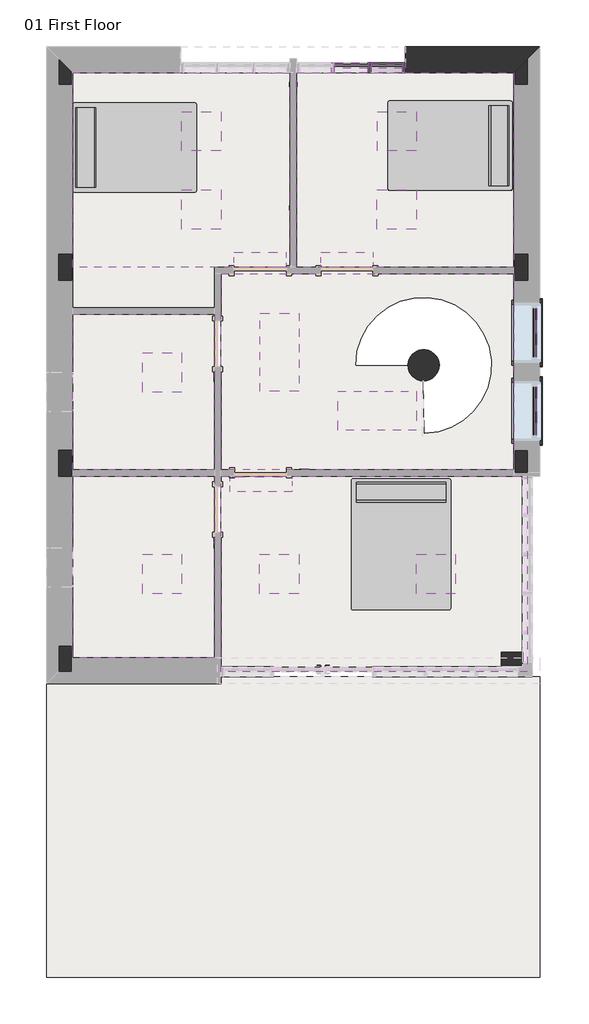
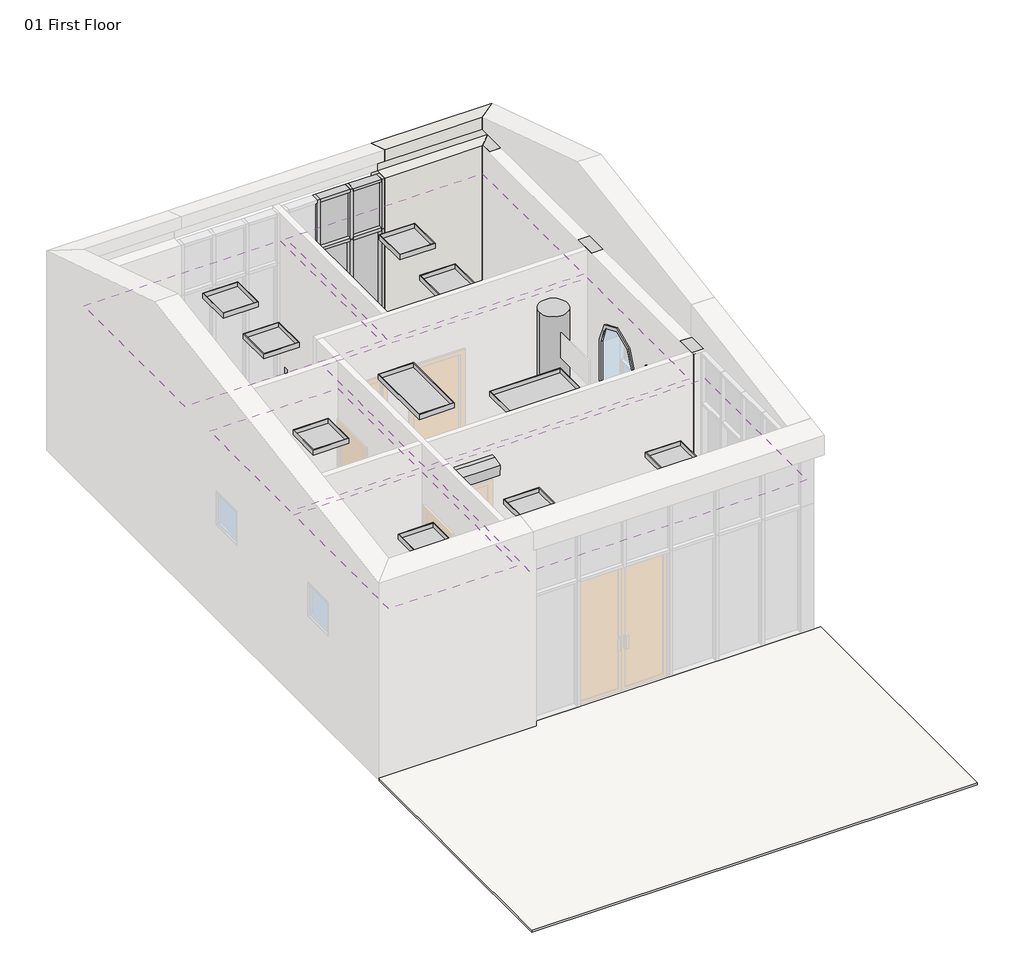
# One storey, part 3 of 3: 22 proxies, 10 light fixtures, 10 members, 9 columns, 6 coverings, 6 switching devices, 4 plates, 4 slabs, 4 other elements.
"""IFC4 building model written with IfcOpenShell, lengths in millimetres."""

from ifc_helpers import new_model, si_unit, point, frame, frame_2d, origin, place, context, project, spatial, polyline, circle_curve, trimmed, segment, composite_curve, outline, extrude, faceted_brep, transform, mapped, element, save
from components import proxy_2_9kw_1a9f3e23, proxy_5_3kw_afc13b87, m_muntin_pattern_2x2_m_muntin_pattern_2x2_eda20b33, m_receptacle_220v_standard_10251bba, m_trim_window_exterior_arch_hung_with_sill_d6b66b3f, m_trim_window_interior_arch_hung_picture_frame_427b2bff, m_bed_standard_1372_x_1905mm_double_2dcc4a2e, m_bed_standard_1525_x_2007mm_queen_67038778, ceiling_light_linear_box_0600x0600mm_1_lamp_277v_bcd122ad, ceiling_light_linear_box_0600x1200mm_2_lamp_230v_26f9dbca, rectangular_mullion_50_x_150mm_8753ce05, rectangular_mullion_50_x_150mm_f70f74d1, rectangular_mullion_50_x_150mm_3ddb3363, rectangular_mullion_50_x_150mm_35d6a770, rectangular_mullion_50_x_150mm_8bb02af5, rectangular_mullion_50_x_150mm_36ef6b42, rectangular_mullion_50_x_150mm_777ece87, rectangular_mullion_50_x_150mm_77e6cf30, system_panel_glazed_dae2c24c, system_panel_glazed_5e1a99da, system_panel_solid_02889cea, system_panel_solid_591e5d25

model = new_model("IFC4")

# Units and contexts
model_context = context("Model", 3, world=origin())
ifc_project = project(units=[si_unit("LENGTHUNIT", "METRE", prefix="MILLI")], contexts=[model_context])

# Site, building, storey
site = spatial("IfcSite", under=ifc_project)
building = spatial("IfcBuilding", under=site)
storey = spatial("IfcBuildingStorey", under=building, Name="01 First Floor", Elevation=3500.0)

# Proxies
placement = place(None, origin())
proxy_2_9kw_shape = proxy_2_9kw_1a9f3e23(model_context)
element("IfcBuildingElementProxy", 1, Name="Fan_Coil_Unit-Daikin-FXAQ-P-WallMount-ConnBack : 2.9Kw", ObjectType="Fan_Coil_Unit-Daikin-FXAQ-P-WallMount-ConnBack : 2.9Kw", at=placement, inside=storey, context=model_context, shape_type="MappedRepresentation", body=[
    mapped(proxy_2_9kw_shape, transform((-3895.6378657, 3256.4463435, 5810.0), x_axis=(-0.9999999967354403, -8.080296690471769e-05, 0.0), y_axis=(8.080296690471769e-05, -0.9999999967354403, 0.0), z_axis=(0.0, 0.0, 1.0))),
])
element("IfcBuildingElementProxy", 2, Name="Fan_Coil_Unit-Daikin-FXAQ-P-WallMount-ConnBack : 2.9Kw", ObjectType="Fan_Coil_Unit-Daikin-FXAQ-P-WallMount-ConnBack : 2.9Kw", at=placement, inside=storey, context=model_context, shape_type="MappedRepresentation", body=[
    mapped(proxy_2_9kw_shape, transform((-5230.6376022, 3256.3348354, 5810.0), x_axis=(-0.9999999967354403, -8.080296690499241e-05, 0.0), y_axis=(8.080296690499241e-05, -0.9999999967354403, 0.0), z_axis=(0.0, 0.0, 1.0))),
])
proxy_5_3kw_shape = proxy_5_3kw_afc13b87(model_context)
element("IfcBuildingElementProxy", 3, Name="Fan_Coil_Unit-Daikin-FXAQ-P-WallMount-ConnBack : 5.3Kw", ObjectType="Fan_Coil_Unit-Daikin-FXAQ-P-WallMount-ConnBack : 5.3Kw", at=placement, inside=storey, context=model_context, shape_type="MappedRepresentation", body=[
    mapped(proxy_5_3kw_shape, transform((-5217.5407999, -186.7101648, 5810.0), x_axis=(1.0, 0.0, 0.0), y_axis=(0.0, 1.0, 0.0), z_axis=(0.0, 0.0, 1.0))),
])
m_muntin_pattern_2x2_m_muntin_pattern_2x2_shape = m_muntin_pattern_2x2_m_muntin_pattern_2x2_eda20b33(model_context)
element("IfcBuildingElementProxy", 4, Name="M_Muntin Pattern_2x2 : M_Muntin Pattern_2x2", ObjectType="M_Muntin Pattern_2x2 : M_Muntin Pattern_2x2", at=placement, inside=storey, context=model_context, shape_type="MappedRepresentation", body=[
    mapped(m_muntin_pattern_2x2_m_muntin_pattern_2x2_shape, transform((-972.4657999, 936.7898352, 4922.225), x_axis=(0.0, -1.0, 0.0), y_axis=(1.0, 0.0, 0.0), z_axis=(0.0, 0.0, 1.0))),
])
element("IfcBuildingElementProxy", 5, Name="M_Muntin Pattern_2x2 : M_Muntin Pattern_2x2", ObjectType="M_Muntin Pattern_2x2 : M_Muntin Pattern_2x2", at=placement, inside=storey, context=model_context, shape_type="MappedRepresentation", body=[
    mapped(m_muntin_pattern_2x2_m_muntin_pattern_2x2_shape, transform((-1016.9157999, 936.7898352, 4076.2), x_axis=(0.0, -1.0, 0.0), y_axis=(1.0, 0.0, 0.0), z_axis=(0.0, 0.0, 1.0))),
])
element("IfcBuildingElementProxy", 6, Name="M_Muntin Pattern_2x2 : M_Muntin Pattern_2x2", ObjectType="M_Muntin Pattern_2x2 : M_Muntin Pattern_2x2", at=placement, inside=storey, context=model_context, shape_type="MappedRepresentation", body=[
    mapped(m_muntin_pattern_2x2_m_muntin_pattern_2x2_shape, transform((-972.4657999, 2136.7898352, 4922.225), x_axis=(0.0, -1.0, 0.0), y_axis=(1.0, 0.0, 0.0), z_axis=(0.0, 0.0, 1.0))),
])
element("IfcBuildingElementProxy", 7, Name="M_Muntin Pattern_2x2 : M_Muntin Pattern_2x2", ObjectType="M_Muntin Pattern_2x2 : M_Muntin Pattern_2x2", at=placement, inside=storey, context=model_context, shape_type="MappedRepresentation", body=[
    mapped(m_muntin_pattern_2x2_m_muntin_pattern_2x2_shape, transform((-1016.9157999, 2136.7898352, 4076.2), x_axis=(0.0, -1.0, 0.0), y_axis=(1.0, 0.0, 0.0), z_axis=(0.0, 0.0, 1.0))),
])
m_receptacle_220v_standard_shape = m_receptacle_220v_standard_10251bba(model_context)
element("IfcBuildingElementProxy", 8, Name="M_Receptacle - 220V : Standard", ObjectType="M_Receptacle - 220V : Standard", at=placement, inside=storey, context=model_context, shape_type="MappedRepresentation", body=[
    mapped(m_receptacle_220v_standard_shape, transform((-8109.5407999, 5771.3036629, 3960.0), x_axis=(0.0, 1.0, 0.0), y_axis=(0.0, 0.0, 1.0), z_axis=(1.0, 0.0, 0.0))),
])
element("IfcBuildingElementProxy", 9, Name="M_Receptacle - 220V : Standard", ObjectType="M_Receptacle - 220V : Standard", at=placement, inside=storey, context=model_context, shape_type="MappedRepresentation", body=[
    mapped(m_receptacle_220v_standard_shape, transform((-8109.5407999, 4155.4948198, 3960.0), x_axis=(0.0, 1.0, 0.0), y_axis=(0.0, 0.0, 1.0), z_axis=(1.0, 0.0, 0.0))),
])
element("IfcBuildingElementProxy", 10, Name="M_Receptacle - 220V : Standard", ObjectType="M_Receptacle - 220V : Standard", at=placement, inside=storey, context=model_context, shape_type="MappedRepresentation", body=[
    mapped(m_receptacle_220v_standard_shape, transform((-1335.5407999, 5799.2898352, 3960.0), x_axis=(0.0, -1.0, 0.0), y_axis=(0.0, 0.0, 1.0), z_axis=(-1.0, 0.0, 0.0))),
])
element("IfcBuildingElementProxy", 11, Name="M_Receptacle - 220V : Standard", ObjectType="M_Receptacle - 220V : Standard", at=placement, inside=storey, context=model_context, shape_type="MappedRepresentation", body=[
    mapped(m_receptacle_220v_standard_shape, transform((-1335.5407999, 4208.453823, 3960.0), x_axis=(0.0, -1.0, 0.0), y_axis=(0.0, 0.0, 1.0), z_axis=(-1.0, 0.0, 0.0))),
])
element("IfcBuildingElementProxy", 12, Name="M_Receptacle - 220V : Standard", ObjectType="M_Receptacle - 220V : Standard", at=placement, inside=storey, context=model_context, shape_type="MappedRepresentation", body=[
    mapped(m_receptacle_220v_standard_shape, transform((-4772.5407999, 5939.2898352, 3960.0), x_axis=(0.0, 1.0, 0.0), y_axis=(0.0, 0.0, -1.0), z_axis=(-1.0, 0.0, 0.0))),
])
element("IfcBuildingElementProxy", 13, Name="M_Receptacle - 220V : Standard", ObjectType="M_Receptacle - 220V : Standard", at=placement, inside=storey, context=model_context, shape_type="MappedRepresentation", body=[
    mapped(m_receptacle_220v_standard_shape, transform((-4668.7907999, 5939.2898352, 3960.0), x_axis=(0.0, -1.0, 0.0), y_axis=(0.0, 0.0, -1.0), z_axis=(1.0, 0.0, 0.0))),
])
element("IfcBuildingElementProxy", 14, Name="M_Receptacle - 220V : Standard", ObjectType="M_Receptacle - 220V : Standard", at=placement, inside=storey, context=model_context, shape_type="MappedRepresentation", body=[
    mapped(m_receptacle_220v_standard_shape, transform((-5932.5407999, 1415.980552, 4700.0), x_axis=(0.0, -1.0, 0.0), y_axis=(0.0, 0.0, 1.0), z_axis=(-1.0, 0.0, 0.0))),
])
element("IfcBuildingElementProxy", 15, Name="M_Receptacle - 220V : Standard", ObjectType="M_Receptacle - 220V : Standard", at=placement, inside=storey, context=model_context, shape_type="MappedRepresentation", body=[
    mapped(m_receptacle_220v_standard_shape, transform((-5932.5407999, -1130.2644248, 4700.0), x_axis=(0.0, -1.0, 0.0), y_axis=(0.0, 0.0, 1.0), z_axis=(-1.0, 0.0, 0.0))),
])
element("IfcBuildingElementProxy", 16, Name="M_Receptacle - 220V : Standard", ObjectType="M_Receptacle - 220V : Standard", at=placement, inside=storey, context=model_context, shape_type="MappedRepresentation", body=[
    mapped(m_receptacle_220v_standard_shape, transform((-3943.4500682, -62.7101648, 3960.0), x_axis=(1.0, 0.0, 0.0), y_axis=(0.0, 0.0, 1.0), z_axis=(0.0, -1.0, 0.0))),
])
element("IfcBuildingElementProxy", 17, Name="M_Receptacle - 220V : Standard", ObjectType="M_Receptacle - 220V : Standard", at=placement, inside=storey, context=model_context, shape_type="MappedRepresentation", body=[
    mapped(m_receptacle_220v_standard_shape, transform((-2227.5407999, -62.7101648, 3960.0), x_axis=(1.0, 0.0, 0.0), y_axis=(0.0, 0.0, 1.0), z_axis=(0.0, -1.0, 0.0))),
])
element("IfcBuildingElementProxy", 18, Name="M_Receptacle - 220V : Standard", ObjectType="M_Receptacle - 220V : Standard", at=placement, inside=storey, context=model_context, shape_type="MappedRepresentation", body=[
    mapped(m_receptacle_220v_standard_shape, transform((-4514.3105571, 37.2898352, 4700.0), x_axis=(-1.0, 0.0, 0.0), y_axis=(0.0, 0.0, 1.0), z_axis=(0.0, 1.0, 0.0))),
])
m_trim_window_exterior_arch_hung_with_sill_shape = m_trim_window_exterior_arch_hung_with_sill_d6b66b3f(model_context)
element("IfcBuildingElementProxy", 19, Name="M_Trim-Window-Exterior-Arch-Hung : with Sill", ObjectType="M_Trim-Window-Exterior-Arch-Hung : with Sill", at=placement, inside=storey, context=model_context, shape_type="MappedRepresentation", body=[
    mapped(m_trim_window_exterior_arch_hung_with_sill_shape, transform((-937.5407999, 936.7898352, 5800.0), x_axis=(0.0, 1.0, 0.0), y_axis=(0.0, 0.0, 1.0), z_axis=(1.0, 0.0, 0.0))),
])
element("IfcBuildingElementProxy", 20, Name="M_Trim-Window-Exterior-Arch-Hung : with Sill", ObjectType="M_Trim-Window-Exterior-Arch-Hung : with Sill", at=placement, inside=storey, context=model_context, shape_type="MappedRepresentation", body=[
    mapped(m_trim_window_exterior_arch_hung_with_sill_shape, transform((-937.5407999, 2136.7898352, 5800.0), x_axis=(0.0, 1.0, 0.0), y_axis=(0.0, 0.0, 1.0), z_axis=(1.0, 0.0, 0.0))),
])
m_trim_window_interior_arch_hung_picture_frame_shape = m_trim_window_interior_arch_hung_picture_frame_427b2bff(model_context)
element("IfcBuildingElementProxy", 21, Name="M_Trim-Window-Interior-Arch-Hung : Picture Frame", ObjectType="M_Trim-Window-Interior-Arch-Hung : Picture Frame", at=placement, inside=storey, context=model_context, shape_type="MappedRepresentation", body=[
    mapped(m_trim_window_interior_arch_hung_picture_frame_shape, transform((-1335.5407999, 936.7898352, 5800.0), x_axis=(0.0, -1.0, 0.0), y_axis=(0.0, 0.0, 1.0), z_axis=(-1.0, 0.0, 0.0))),
])
element("IfcBuildingElementProxy", 22, Name="M_Trim-Window-Interior-Arch-Hung : Picture Frame", ObjectType="M_Trim-Window-Interior-Arch-Hung : Picture Frame", at=placement, inside=storey, context=model_context, shape_type="MappedRepresentation", body=[
    mapped(m_trim_window_interior_arch_hung_picture_frame_shape, transform((-1335.5407999, 2136.7898352, 5800.0), x_axis=(0.0, -1.0, 0.0), y_axis=(0.0, 0.0, 1.0), z_axis=(-1.0, 0.0, 0.0))),
])

# Columns
element("IfcColumn", 23, ObjectType="M_Concrete-Rectangular-Column : 200 x 325mm", at=placement, inside=storey, context=model_context, shape_type="SweptSolid", body=[
    extrude(outline(polyline([(-1527.5407999, -2762.7101648), (-1202.5407999, -2762.7101648), (-1202.5407999, -2962.7101648), (-1527.5407999, -2962.7101648), (-1527.5407999, -2762.7101648)])), frame((0.0, 0.0, 3500.0), z_axis=(0.0, 0.0, 1.0), x_axis=(1.0, 0.0, 0.0)), (0.0, 0.0, 1.0), 3200.0),
])
element("IfcColumn", 24, ObjectType="M_Concrete-Rectangular-Column : 200 x 400mm", at=placement, inside=storey, context=model_context, shape_type="Brep", body=[
    faceted_brep([(-8122.5407999, 6337.2898352, 3500.0), (-8122.5407999, 6137.2898352, 3500.0), (-8122.5407999, 5937.2898352, 3500.0), (-8322.5407999, 5937.2898352, 3500.0), (-8322.5407999, 6337.2898352, 3500.0), (-8122.5407999, 6337.2898352, 6700.0), (-8122.5407999, 6137.2898352, 6700.0), (-8122.5407999, 5937.2898352, 6700.0), (-8322.5407999, 5937.2898352, 6700.0), (-8322.5407999, 6337.2898352, 6700.0)], [[[0, 1, 2, 3, 4]], [[2, 1, 0, 5, 6, 7]], [[3, 2, 7, 8]], [[4, 3, 8, 9]], [[0, 4, 9, 5]], [[7, 6, 5, 9, 8]]]),
])
element("IfcColumn", 25, ObjectType="M_Concrete-Rectangular-Column : 200 x 400mm", at=placement, inside=storey, context=model_context, shape_type="SweptSolid", body=[
    extrude(outline(polyline([(-8122.5407999, 3337.2898352), (-8122.5407999, 2937.2898352), (-8322.5407999, 2937.2898352), (-8322.5407999, 3337.2898352), (-8122.5407999, 3337.2898352)])), frame((0.0, 0.0, 3500.0), z_axis=(0.0, 0.0, 1.0), x_axis=(1.0, 0.0, 0.0)), (0.0, 0.0, 1.0), 3200.0),
])
element("IfcColumn", 26, ObjectType="M_Concrete-Rectangular-Column : 200 x 400mm", at=placement, inside=storey, context=model_context, shape_type="SweptSolid", body=[
    extrude(outline(polyline([(-8122.5407999, 337.2898352), (-8122.5407999, -62.7101648), (-8322.5407999, -62.7101648), (-8322.5407999, 337.2898352), (-8122.5407999, 337.2898352)])), frame((0.0, 0.0, 3500.0), z_axis=(0.0, 0.0, 1.0), x_axis=(1.0, 0.0, 0.0)), (0.0, 0.0, 1.0), 3200.0),
])
element("IfcColumn", 27, ObjectType="M_Concrete-Rectangular-Column : 200 x 400mm", at=placement, inside=storey, context=model_context, shape_type="Brep", body=[
    faceted_brep([(-8122.5407999, -2662.7101648, 3500.0), (-8122.5407999, -2862.7101648, 3500.0), (-8122.5407999, -3062.7101648, 3500.0), (-8322.5407999, -3062.7101648, 3500.0), (-8322.5407999, -2662.7101648, 3500.0), (-8122.5407999, -2662.7101648, 6700.0), (-8122.5407999, -2862.7101648, 6700.0), (-8122.5407999, -3062.7101648, 6700.0), (-8322.5407999, -3062.7101648, 6700.0), (-8322.5407999, -2662.7101648, 6700.0)], [[[0, 1, 2, 3, 4]], [[2, 1, 0, 5, 6, 7]], [[3, 2, 7, 8]], [[4, 3, 8, 9]], [[0, 4, 9, 5]], [[7, 6, 5, 9, 8]]]),
])
element("IfcColumn", 28, ObjectType="M_Concrete-Rectangular-Column : 200 x 400mm", at=placement, inside=storey, context=model_context, shape_type="Brep", body=[
    faceted_brep([(-1122.5407999, 337.2898352, 3500.0), (-1122.5407999, -12.7101648, 3500.0), (-1122.5407999, -62.7101648, 3500.0), (-1322.5407999, -62.7101648, 3500.0), (-1322.5407999, -12.7101648, 3500.0), (-1322.5407999, 337.2898352, 3500.0), (-1122.5407999, 337.2898352, 6700.0), (-1122.5407999, -62.7101648, 6700.0), (-1322.5407999, -62.7101648, 6700.0), (-1322.5407999, -12.7101648, 6700.0), (-1322.5407999, 337.2898352, 6700.0)], [[[0, 1, 2, 3, 4, 5]], [[2, 1, 0, 6, 7]], [[3, 2, 7, 8]], [[5, 4, 3, 8, 9, 10]], [[0, 5, 10, 6]], [[7, 6, 10, 9, 8]]]),
])
element("IfcColumn", 29, ObjectType="M_Concrete-Rectangular-Column : 200 x 400mm", at=placement, inside=storey, context=model_context, shape_type="Brep", body=[
    faceted_brep([(-1122.5407999, 6337.2898352, 3500.0), (-1122.5407999, 5937.2898352, 3500.0), (-1322.5407999, 5937.2898352, 3500.0), (-1322.5407999, 6137.2898352, 3500.0), (-1322.5407999, 6337.2898352, 3500.0), (-1122.5407999, 6337.2898352, 6700.0), (-1122.5407999, 5937.2898352, 6700.0), (-1322.5407999, 5937.2898352, 6700.0), (-1322.5407999, 6137.2898352, 6700.0), (-1322.5407999, 6337.2898352, 6700.0)], [[[0, 1, 2, 3, 4]], [[1, 0, 5, 6]], [[2, 1, 6, 7]], [[4, 3, 2, 7, 8, 9]], [[0, 4, 9, 5]], [[6, 5, 9, 8, 7]]]),
])
element("IfcColumn", 30, ObjectType="M_Concrete-Rectangular-Column : 200 x 400mm", at=placement, inside=storey, context=model_context, shape_type="SweptSolid", body=[
    extrude(outline(polyline([(-1122.5407999, 3337.2898352), (-1122.5407999, 2937.2898352), (-1322.5407999, 2937.2898352), (-1322.5407999, 3337.2898352), (-1122.5407999, 3337.2898352)])), frame((0.0, 0.0, 3500.0), z_axis=(0.0, 0.0, 1.0), x_axis=(1.0, 0.0, 0.0)), (0.0, 0.0, 1.0), 3200.0),
])
element("IfcColumn", 31, ObjectType="M_Concrete-Round-Column : 480mm", at=placement, inside=storey, context=model_context, shape_type="SweptSolid", body=[
    extrude(outline(composite_curve([segment(trimmed(circle_curve(frame_2d((-2722.5407999, 1637.2898352)), 240.0), [point((-2962.5407999, 1637.2898352))], [point((-2482.5407999, 1637.2898352))], False, "CARTESIAN"), True, "CONTINUOUS"), segment(trimmed(circle_curve(frame_2d((-2722.5407999, 1637.2898352)), 240.0), [point((-2482.5407999, 1637.2898352))], [point((-2962.5407999, 1637.2898352))], False, "CARTESIAN"), True, "CONTINUOUS")], self_intersect=False)), frame((0.0, 0.0, 3500.0), z_axis=(0.0, 0.0, 1.0), x_axis=(1.0, 0.0, 0.0)), (0.0, 0.0, 1.0), 3500.0),
])

# Coverings
element("IfcCovering", 32, ObjectType="600 x 600mm Grid", at=placement, inside=storey, context=model_context, shape_type="SweptSolid", body=[
    extrude(outline(polyline([(-1127.5407999, -62.7101648), (-1127.5407999, -3062.7101648), (-5832.5407999, -3062.7101648), (-5832.5407999, -62.7101648), (-1127.5407999, -62.7101648)])), frame((0.0, 0.0, 6200.0), z_axis=(0.0, 0.0, 1.0), x_axis=(1.0, 0.0, 0.0)), (0.0, 0.0, 1.0), 52.0),
])
element("IfcCovering", 33, ObjectType="600 x 600mm Grid", at=placement, inside=storey, context=model_context, shape_type="SweptSolid", body=[
    extrude(outline(polyline([(-5832.5407999, 3037.2898352), (-1335.5407999, 3037.6532062), (-1335.5407999, 37.2898352), (-5832.5407999, 37.2898352), (-5832.5407999, 3037.2898352)]), holes=[composite_curve([segment(polyline([(-3570.4652094, 2239.5747664), (-2917.8645013, 1776.2998237)]), True, "CONTINUOUS"), segment(trimmed(circle_curve(frame_2d((-2722.147977, 1637.3625525)), 240.0177561), [point((-2917.8645013, 1776.2998237))], [point((-2722.147977, 1397.3447964))], False, "CARTESIAN"), True, "CONTINUOUS"), segment(polyline([(-2722.147977, 1397.3447964), (-2709.6572376, 597.4130295)]), True, "CONTINUOUS"), segment(trimmed(circle_curve(frame_2d((-2722.5259059, 1637.3625525)), 1040.0291404), [point((-2709.6572376, 597.4130295))], [point((-3570.4652094, 2239.5747664))], True, "CARTESIAN"), True, "CONTINUOUS")], self_intersect=False)]), frame((0.0, 0.0, 6200.0), z_axis=(0.0, 0.0, 1.0), x_axis=(1.0, 0.0, 0.0)), (0.0, 0.0, 1.0), 52.0),
])
element("IfcCovering", 34, ObjectType="600 x 600mm Grid", at=placement, inside=storey, context=model_context, shape_type="SweptSolid", body=[
    extrude(outline(polyline([(-2997.5407999, 6124.2898352), (-1335.5407999, 6124.2898352), (-1335.5407999, 3137.6532065), (-4672.5407999, 3137.383567), (-4672.5407999, 6124.2898352), (-2997.5407999, 6124.2898352)])), frame((0.0, 0.0, 6200.0), z_axis=(0.0, 0.0, 1.0), x_axis=(1.0, 0.0, 0.0)), (0.0, 0.0, 1.0), 52.0),
])
element("IfcCovering", 35, ObjectType="600 x 600mm Grid", at=placement, inside=storey, context=model_context, shape_type="SweptSolid", body=[
    extrude(outline(polyline([(-4772.5407999, 6124.2898352), (-4772.5407999, 3137.3754867), (-8109.5407999, 3137.3754867), (-8109.5407999, 6124.2898352), (-4772.5407999, 6124.2898352)])), frame((0.0, 0.0, 6200.0), z_axis=(0.0, 0.0, 1.0), x_axis=(1.0, 0.0, 0.0)), (0.0, 0.0, 1.0), 52.0),
])
element("IfcCovering", 36, ObjectType="600 x 600mm Grid", at=placement, inside=storey, context=model_context, shape_type="SweptSolid", body=[
    extrude(outline(polyline([(-5932.5407999, 37.2898352), (-8109.5407999, 37.2898352), (-8109.5407999, 2415.8732706), (-5932.5407999, 2415.8732706), (-5932.5407999, 37.2898352)])), frame((0.0, 0.0, 6200.0), z_axis=(0.0, 0.0, 1.0), x_axis=(1.0, 0.0, 0.0)), (0.0, 0.0, 1.0), 52.0),
])
element("IfcCovering", 37, ObjectType="600 x 600mm Grid", at=placement, inside=storey, context=model_context, shape_type="SweptSolid", body=[
    extrude(outline(polyline([(-5932.5407999, -2849.7101648), (-8109.5407999, -2849.7101648), (-8109.5407999, -62.7101648), (-5932.5407999, -62.7101648), (-5932.5407999, -2849.7101648)])), frame((0.0, 0.0, 6200.0), z_axis=(0.0, 0.0, 1.0), x_axis=(1.0, 0.0, 0.0)), (0.0, 0.0, 1.0), 52.0),
])

# Furniture
m_bed_standard_1372_x_1905mm_double_shape = m_bed_standard_1372_x_1905mm_double_2dcc4a2e(model_context)
element("IfcFurniture", 38, ObjectType="M_Bed-Standard : 1372 x 1905mm - Double", at=placement, inside=storey, context=model_context, shape_type="MappedRepresentation", body=[
    mapped(m_bed_standard_1372_x_1905mm_double_shape, transform((-2270.445718, 5273.7783598, 3515.0), x_axis=(0.0, -1.0, 0.0), y_axis=(1.0, 0.0, 0.0), z_axis=(0.0, 0.0, 1.0))),
])
element("IfcFurniture", 39, ObjectType="M_Bed-Standard : 1372 x 1905mm - Double", at=placement, inside=storey, context=model_context, shape_type="MappedRepresentation", body=[
    mapped(m_bed_standard_1372_x_1905mm_double_shape, transform((-7202.6358819, 4702.8013106, 3515.0), x_axis=(0.0, 1.0, 0.0), y_axis=(-1.0, 0.0, 0.0), z_axis=(0.0, 0.0, 1.0))),
])
m_bed_standard_1525_x_2007mm_queen_shape = m_bed_standard_1525_x_2007mm_queen_67038778(model_context)
element("IfcFurniture", 40, ObjectType="M_Bed-Standard : 1525 x 2007mm - Queen", at=placement, inside=storey, context=model_context, shape_type="MappedRepresentation", body=[
    mapped(m_bed_standard_1525_x_2007mm_queen_shape, transform((-3340.0293245, -1062.6150828, 3515.0), x_axis=(1.0, 0.0, 0.0), y_axis=(0.0, 1.0, 0.0), z_axis=(0.0, 0.0, 1.0))),
])

# Light fixtures
ceiling_light_linear_box_0600x0600mm_1_lamp_277v_shape = ceiling_light_linear_box_0600x0600mm_1_lamp_277v_bcd122ad(model_context)
element("IfcLightFixture", 41, ObjectType="Ceiling Light - Linear Box : 0600x0600mm(1 Lamp) - 277V", at=placement, inside=storey, context=model_context, shape_type="MappedRepresentation", body=[
    mapped(ceiling_light_linear_box_0600x0600mm_1_lamp_277v_shape, transform((-3132.5407999, 4924.2898352, 6200.0), x_axis=(1.0, 0.0, 0.0), y_axis=(0.0, -1.0, 0.0), z_axis=(0.0, 0.0, -1.0))),
])
element("IfcLightFixture", 42, ObjectType="Ceiling Light - Linear Box : 0600x0600mm(1 Lamp) - 277V", at=placement, inside=storey, context=model_context, shape_type="MappedRepresentation", body=[
    mapped(ceiling_light_linear_box_0600x0600mm_1_lamp_277v_shape, transform((-3135.5407999, 3724.2898352, 6200.0), x_axis=(1.0, 0.0, 0.0), y_axis=(0.0, -1.0, 0.0), z_axis=(0.0, 0.0, -1.0))),
])
element("IfcLightFixture", 43, ObjectType="Ceiling Light - Linear Box : 0600x0600mm(1 Lamp) - 277V", at=placement, inside=storey, context=model_context, shape_type="MappedRepresentation", body=[
    mapped(ceiling_light_linear_box_0600x0600mm_1_lamp_277v_shape, transform((-6132.5407999, 3724.2898352, 6200.0), x_axis=(1.0, 0.0, 0.0), y_axis=(0.0, -1.0, 0.0), z_axis=(0.0, 0.0, -1.0))),
])
element("IfcLightFixture", 44, ObjectType="Ceiling Light - Linear Box : 0600x0600mm(1 Lamp) - 277V", at=placement, inside=storey, context=model_context, shape_type="MappedRepresentation", body=[
    mapped(ceiling_light_linear_box_0600x0600mm_1_lamp_277v_shape, transform((-6132.5407999, 4924.2898352, 6200.0), x_axis=(1.0, 0.0, 0.0), y_axis=(0.0, -1.0, 0.0), z_axis=(0.0, 0.0, -1.0))),
])
element("IfcLightFixture", 45, ObjectType="Ceiling Light - Linear Box : 0600x0600mm(1 Lamp) - 277V", at=placement, inside=storey, context=model_context, shape_type="MappedRepresentation", body=[
    mapped(ceiling_light_linear_box_0600x0600mm_1_lamp_277v_shape, transform((-6732.5407999, 1226.5815529, 6200.0), x_axis=(1.0, 0.0, 0.0), y_axis=(0.0, -1.0, 0.0), z_axis=(0.0, 0.0, -1.0))),
])
element("IfcLightFixture", 46, ObjectType="Ceiling Light - Linear Box : 0600x0600mm(1 Lamp) - 277V", at=placement, inside=storey, context=model_context, shape_type="MappedRepresentation", body=[
    mapped(ceiling_light_linear_box_0600x0600mm_1_lamp_277v_shape, transform((-6732.5407999, -1862.7101648, 6200.0), x_axis=(1.0, 0.0, 0.0), y_axis=(0.0, -1.0, 0.0), z_axis=(0.0, 0.0, -1.0))),
])
element("IfcLightFixture", 47, ObjectType="Ceiling Light - Linear Box : 0600x0600mm(1 Lamp) - 277V", at=placement, inside=storey, context=model_context, shape_type="MappedRepresentation", body=[
    mapped(ceiling_light_linear_box_0600x0600mm_1_lamp_277v_shape, transform((-4937.1476914, -1862.7101648, 6200.0), x_axis=(1.0, 0.0, 0.0), y_axis=(0.0, -1.0, 0.0), z_axis=(0.0, 0.0, -1.0))),
])
element("IfcLightFixture", 48, ObjectType="Ceiling Light - Linear Box : 0600x0600mm(1 Lamp) - 277V", at=placement, inside=storey, context=model_context, shape_type="MappedRepresentation", body=[
    mapped(ceiling_light_linear_box_0600x0600mm_1_lamp_277v_shape, transform((-2532.5407999, -1862.7101648, 6200.0), x_axis=(1.0, 0.0, 0.0), y_axis=(0.0, -1.0, 0.0), z_axis=(0.0, 0.0, -1.0))),
])
ceiling_light_linear_box_0600x1200mm_2_lamp_230v_shape = ceiling_light_linear_box_0600x1200mm_2_lamp_230v_26f9dbca(model_context)
element("IfcLightFixture", 49, ObjectType="Ceiling Light - Linear Box : 0600x1200mm(2 Lamp) - 230V", at=placement, inside=storey, context=model_context, shape_type="MappedRepresentation", body=[
    mapped(ceiling_light_linear_box_0600x1200mm_2_lamp_230v_shape, transform((-5232.5407999, 1837.2898352, 6200.0), x_axis=(0.0, -1.0, 0.0), y_axis=(-1.0, 0.0, 0.0), z_axis=(0.0, 0.0, -1.0))),
])
element("IfcLightFixture", 50, ObjectType="Ceiling Light - Linear Box : 0600x1200mm(2 Lamp) - 230V", at=placement, inside=storey, context=model_context, shape_type="MappedRepresentation", body=[
    mapped(ceiling_light_linear_box_0600x1200mm_2_lamp_230v_shape, transform((-3432.5407999, 637.2898352, 6200.0), x_axis=(1.0, 0.0, 0.0), y_axis=(0.0, -1.0, 0.0), z_axis=(0.0, 0.0, -1.0))),
])

# Members
rectangular_mullion_50_x_150mm_shape = rectangular_mullion_50_x_150mm_8753ce05(model_context)
element("IfcMember", 51, ObjectType="Rectangular Mullion : 50 x 150mm", at=placement, inside=storey, context=model_context, shape_type="MappedRepresentation", body=[
    mapped(rectangular_mullion_50_x_150mm_shape, transform((-2997.5407999, 6199.2898352, 3500.0), x_axis=(1.0, 0.0, 0.0), y_axis=(0.0, -1.0, 0.0), z_axis=(0.0, 0.0, -1.0))),
])
rectangular_mullion_50_x_150mm_2_shape = rectangular_mullion_50_x_150mm_f70f74d1(model_context)
element("IfcMember", 52, ObjectType="Rectangular Mullion : 50 x 150mm", at=placement, inside=storey, context=model_context, shape_type="MappedRepresentation", body=[
    mapped(rectangular_mullion_50_x_150mm_2_shape, transform((-3554.6241334, 6199.2898352, 3500.0), x_axis=(1.0, 0.0, 0.0), y_axis=(0.0, -1.0, 0.0), z_axis=(0.0, 0.0, -1.0))),
])
rectangular_mullion_50_x_150mm_3_shape = rectangular_mullion_50_x_150mm_3ddb3363(model_context)
element("IfcMember", 53, ObjectType="Rectangular Mullion : 50 x 150mm", at=placement, inside=storey, context=model_context, shape_type="MappedRepresentation", body=[
    mapped(rectangular_mullion_50_x_150mm_3_shape, transform((-4111.7074665, 6199.2898352, 5800.0), x_axis=(1.0, 0.0, 0.0), y_axis=(0.0, -1.0, 0.0), z_axis=(0.0, 0.0, -1.0))),
])
element("IfcMember", 54, ObjectType="Rectangular Mullion : 50 x 150mm", at=placement, inside=storey, context=model_context, shape_type="MappedRepresentation", body=[
    mapped(rectangular_mullion_50_x_150mm_3_shape, transform((-3554.6241334, 6199.2898352, 5800.0), x_axis=(1.0, 0.0, 0.0), y_axis=(0.0, -1.0, 0.0), z_axis=(0.0, 0.0, -1.0))),
])
rectangular_mullion_50_x_150mm_4_shape = rectangular_mullion_50_x_150mm_35d6a770(model_context)
element("IfcMember", 55, ObjectType="Rectangular Mullion : 50 x 150mm", at=placement, inside=storey, context=model_context, shape_type="MappedRepresentation", body=[
    mapped(rectangular_mullion_50_x_150mm_4_shape, transform((-2997.5407999, 6199.2898352, 5800.0), x_axis=(1.0, 0.0, 0.0), y_axis=(0.0, -1.0, 0.0), z_axis=(0.0, 0.0, -1.0))),
])
rectangular_mullion_50_x_150mm_5_shape = rectangular_mullion_50_x_150mm_8bb02af5(model_context)
element("IfcMember", 56, ObjectType="Rectangular Mullion : 50 x 150mm", at=placement, inside=storey, context=model_context, shape_type="MappedRepresentation", body=[
    mapped(rectangular_mullion_50_x_150mm_5_shape, transform((-3047.5407999, 6199.2898352, 6700.0), x_axis=(0.0, 0.0, 1.0), y_axis=(0.0, -1.0, 0.0), z_axis=(1.0, 0.0, 0.0))),
])
rectangular_mullion_50_x_150mm_6_shape = rectangular_mullion_50_x_150mm_36ef6b42(model_context)
element("IfcMember", 57, ObjectType="Rectangular Mullion : 50 x 150mm", at=placement, inside=storey, context=model_context, shape_type="MappedRepresentation", body=[
    mapped(rectangular_mullion_50_x_150mm_6_shape, transform((-3579.6241334, 6199.2898352, 6700.0), x_axis=(0.0, 0.0, 1.0), y_axis=(0.0, -1.0, 0.0), z_axis=(1.0, 0.0, 0.0))),
])
element("IfcMember", 58, ObjectType="Rectangular Mullion : 50 x 150mm", at=placement, inside=storey, context=model_context, shape_type="MappedRepresentation", body=[
    mapped(rectangular_mullion_50_x_150mm_5_shape, transform((-3529.6241334, 6199.2898352, 3500.0), x_axis=(0.0, 0.0, -1.0), y_axis=(0.0, -1.0, 0.0), z_axis=(-1.0, 0.0, 0.0))),
])
rectangular_mullion_50_x_150mm_7_shape = rectangular_mullion_50_x_150mm_777ece87(model_context)
element("IfcMember", 59, ObjectType="Rectangular Mullion : 50 x 150mm", at=placement, inside=storey, context=model_context, shape_type="MappedRepresentation", body=[
    mapped(rectangular_mullion_50_x_150mm_7_shape, transform((-3047.5407999, 6199.2898352, 5800.0), x_axis=(0.0, 0.0, 1.0), y_axis=(0.0, -1.0, 0.0), z_axis=(1.0, 0.0, 0.0))),
])
rectangular_mullion_50_x_150mm_8_shape = rectangular_mullion_50_x_150mm_77e6cf30(model_context)
element("IfcMember", 60, ObjectType="Rectangular Mullion : 50 x 150mm", at=placement, inside=storey, context=model_context, shape_type="MappedRepresentation", body=[
    mapped(rectangular_mullion_50_x_150mm_8_shape, transform((-3579.6241334, 6199.2898352, 5800.0), x_axis=(0.0, 0.0, 1.0), y_axis=(0.0, -1.0, 0.0), z_axis=(1.0, 0.0, 0.0))),
])

# Plates
system_panel_glazed_shape = system_panel_glazed_dae2c24c(model_context)
element("IfcPlate", 61, ObjectType="System Panel : Glazed", at=placement, inside=storey, context=model_context, shape_type="MappedRepresentation", body=[
    mapped(system_panel_glazed_shape, transform((-3288.5824667, 6199.2898352, 3550.0), x_axis=(1.0, 0.0, 0.0), y_axis=(0.0, 1.0, 0.0), z_axis=(0.0, 0.0, 1.0))),
])
system_panel_glazed_2_shape = system_panel_glazed_5e1a99da(model_context)
element("IfcPlate", 62, ObjectType="System Panel : Glazed", at=placement, inside=storey, context=model_context, shape_type="MappedRepresentation", body=[
    mapped(system_panel_glazed_2_shape, transform((-3833.1657999, 6199.2898352, 3550.0), x_axis=(1.0, 0.0, 0.0), y_axis=(0.0, 1.0, 0.0), z_axis=(0.0, 0.0, 1.0))),
])
system_panel_solid_shape = system_panel_solid_02889cea(model_context)
element("IfcPlate", 63, ObjectType="System Panel : Solid", at=placement, inside=storey, context=model_context, shape_type="MappedRepresentation", body=[
    mapped(system_panel_solid_shape, transform((-3288.5824667, 6199.2898352, 5825.0), x_axis=(1.0, 0.0, 0.0), y_axis=(0.0, 1.0, 0.0), z_axis=(0.0, 0.0, 1.0))),
])
system_panel_solid_2_shape = system_panel_solid_591e5d25(model_context)
element("IfcPlate", 64, ObjectType="System Panel : Solid", at=placement, inside=storey, context=model_context, shape_type="MappedRepresentation", body=[
    mapped(system_panel_solid_2_shape, transform((-3833.1657999, 6199.2898352, 5825.0), x_axis=(1.0, 0.0, 0.0), y_axis=(0.0, 1.0, 0.0), z_axis=(0.0, 0.0, 1.0))),
])

# Slabs
element("IfcSlab", 65, ObjectType="DECK FLOOR TILES 40mm", at=placement, inside=storey, context=model_context, shape_type="SweptSolid", body=[
    extrude(outline(polyline([(-5832.5407999, -3247.7101648), (-5832.5407999, -3137.7101648), (-937.5407999, -3137.7101648), (-937.5407999, -7747.7101648), (-8507.5407999, -7747.7101648), (-8507.5407999, -3247.7101648), (-5832.5407999, -3247.7101648)])), frame((0.0, 0.0, 3500.0), z_axis=(0.0, 0.0, 1.0), x_axis=(1.0, 0.0, 0.0)), (0.0, 0.0, 1.0), 40.0),
])
element("IfcSlab", 66, ObjectType="Floor Mosaic 88mm", at=placement, inside=storey, context=model_context, shape_type="SweptSolid", body=[
    extrude(outline(polyline([(-5932.5407999, 2415.8732706), (-5932.5407999, 37.2898352), (-8109.5407999, 37.2898352), (-8109.5407999, 2415.8732706), (-5932.5407999, 2415.8732706)])), frame((0.0, 0.0, 3500.0), z_axis=(0.0, 0.0, 1.0), x_axis=(1.0, 0.0, 0.0)), (0.0, 0.0, 1.0), 88.0),
])
element("IfcSlab", 67, ObjectType="Floor Mosaic 88mm", at=placement, inside=storey, context=model_context, shape_type="SweptSolid", body=[
    extrude(outline(polyline([(-8122.5407999, -62.7101648), (-5932.5407999, -62.7101648), (-5932.5407999, -2849.7101648), (-8122.5407999, -2849.7101648), (-8122.5407999, -62.7101648)])), frame((0.0, 0.0, 3500.0), z_axis=(0.0, 0.0, 1.0), x_axis=(1.0, 0.0, 0.0)), (0.0, 0.0, 1.0), 88.0),
])
element("IfcSlab", 68, ObjectType="Floor Parquet 15mm", at=placement, inside=storey, context=model_context, shape_type="SweptSolid", body=[
    extrude(outline(polyline([(-8122.5407999, 6124.2898352), (-4772.5407999, 6124.2898352), (-4772.5407999, 3137.3710698), (-4827.2040508, 3137.3710698), (-4827.1959705, 3037.3710701), (-4298.0996436, 3037.4138226), (-4298.1077239, 3137.4138223), (-4672.5407999, 3137.383567), (-4668.7907999, 6124.2898352), (-1335.5407999, 6124.2898352), (-1335.5407999, 3137.6532065), (-3496.4162705, 3137.4786014), (-3498.0996603, 3037.6532062), (-1335.5407999, 3037.6532062), (-1335.5407999, 37.2898352), (-4822.5407999, 37.2898352), (-4822.5407999, -67.7101648), (-1212.5407999, -67.7101648), (-1212.5407999, -2762.7101648), (-1527.5407999, -2762.7101648), (-1527.5407999, -2987.7101648), (-5832.5407999, -2987.7101648), (-5832.5407999, -62.7101648), (-5622.5407999, -62.7101648), (-5622.5407999, 37.2898352), (-5832.5407999, 37.2898352), (-5832.5407999, 3037.2898352), (-5627.1959679, 3037.3064277), (-5627.2040462, 3137.2817553), (-5932.5407999, 3137.2817553), (-5932.5407999, 2515.8732706), (-8109.5407999, 2515.8732706), (-8122.5407999, 6124.2898352)]), holes=[composite_curve([segment(polyline([(-3762.5550463, 1637.3383134), (-2962.5407975, 1637.3383134)]), True, "CONTINUOUS"), segment(trimmed(circle_curve(frame_2d((-2722.5407914, 1637.3383134)), 240.0000061), [point((-2962.5407975, 1637.3383134))], [point((-2722.1478806, 1397.3386289))], True, "CARTESIAN"), True, "CONTINUOUS"), segment(polyline([(-2722.1478806, 1397.3386289), (-2709.6568591, 597.3887951)]), True, "CONTINUOUS"), segment(trimmed(circle_curve(frame_2d((-2722.5259059, 1637.3383134)), 1040.0291404), [point((-2709.6568591, 597.3887951))], [point((-3762.5550463, 1637.3383134))], True, "CARTESIAN"), True, "CONTINUOUS")], self_intersect=False)]), frame((0.0, 0.0, 3500.0), z_axis=(0.0, 0.0, 1.0), x_axis=(1.0, 0.0, 0.0)), (0.0, 0.0, 1.0), 15.0),
])

# Switching devices
element("IfcSwitchingDevice", 69, ObjectType="M_Lighting Switches : Single Pole", at=placement, inside=storey, context=model_context, shape_type="MappedRepresentation", body=[
    mapped(m_receptacle_220v_standard_shape, transform((-3329.2752988, 3137.4921068, 4700.0), x_axis=(-0.9999999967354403, -8.080296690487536e-05, 0.0), y_axis=(0.0, 0.0, 1.0), z_axis=(-8.080296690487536e-05, 0.9999999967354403, 0.0))),
])
element("IfcSwitchingDevice", 70, ObjectType="M_Lighting Switches : Single Pole", at=placement, inside=storey, context=model_context, shape_type="MappedRepresentation", body=[
    mapped(m_receptacle_220v_standard_shape, transform((-4772.5407999, 4046.2898352, 4700.0), x_axis=(0.0, -1.0, 0.0), y_axis=(0.0, 0.0, 1.0), z_axis=(-1.0, 0.0, 0.0))),
])
element("IfcSwitchingDevice", 71, ObjectType="M_Lighting Switches : Single Pole", at=placement, inside=storey, context=model_context, shape_type="MappedRepresentation", body=[
    mapped(m_receptacle_220v_standard_shape, transform((-5932.5407999, 1497.2898352, 4700.0), x_axis=(0.0, -1.0, 0.0), y_axis=(0.0, 0.0, 1.0), z_axis=(-1.0, 0.0, 0.0))),
])
element("IfcSwitchingDevice", 72, ObjectType="M_Lighting Switches : Single Pole", at=placement, inside=storey, context=model_context, shape_type="MappedRepresentation", body=[
    mapped(m_receptacle_220v_standard_shape, transform((-5932.5407999, -1042.7101648, 4700.0), x_axis=(0.0, -1.0, 0.0), y_axis=(0.0, 0.0, 1.0), z_axis=(-1.0, 0.0, 0.0))),
])
element("IfcSwitchingDevice", 73, ObjectType="M_Lighting Switches : Single Pole", at=placement, inside=storey, context=model_context, shape_type="MappedRepresentation", body=[
    mapped(m_receptacle_220v_standard_shape, transform((-4592.5407999, -62.7101648, 4700.0), x_axis=(1.0, 0.0, 0.0), y_axis=(0.0, 0.0, 1.0), z_axis=(0.0, -1.0, 0.0))),
])
element("IfcSwitchingDevice", 74, ObjectType="M_Lighting Switches : Single Pole", at=placement, inside=storey, context=model_context, shape_type="MappedRepresentation", body=[
    mapped(m_receptacle_220v_standard_shape, transform((-4592.4246311, 37.2898352, 4700.0), x_axis=(-1.0, 0.0, 0.0), y_axis=(0.0, 0.0, 1.0), z_axis=(0.0, 1.0, 0.0))),
])

# Wall
element("IfcWall", 75, ObjectType="Exterior - Brick on CMU", at=placement, inside=storey, context=model_context, shape_type="Brep", body=[
    faceted_brep([(-937.5407999, 6522.2898352, 3500.0), (-1122.5407999, 6522.2898352, 3500.0), (-1300.0407999, 6522.2898352, 3500.0), (-2997.5407999, 6522.2898352, 3500.0), (-2997.5407999, 6522.2898352, 6700.0), (-2997.5407999, 6522.2898352, 7084.4927536), (-937.5407999, 6522.2898352, 7084.4927536), (-2997.5407999, 6124.2898352, 3500.0), (-1335.5407999, 6124.2898352, 3500.0), (-1335.5407999, 6124.2898352, 6700.0), (-2997.5407999, 6124.2898352, 6700.0), (-1335.5407999, 6124.2898352, 7211.3913043), (-2997.5407999, 6124.2898352, 7211.3913043), (-2997.5407999, 6124.2898352, 7000.0), (-1335.5407999, 6124.2898352, 7000.0), (-1122.5407999, 6337.2898352, 3500.0), (-1322.5407999, 6137.2898352, 3500.0), (-2997.5407999, 6337.2898352, 6700.0), (-2997.5407999, 6337.2898352, 7000.0), (-1122.5407999, 6337.2898352, 7000.0), (-1122.5407999, 6337.2898352, 6700.0), (-1322.5407999, 6137.2898352, 6700.0)], [[[0, 1, 2, 3, 4, 5, 6]], [[7, 8, 9, 10]], [[11, 12, 13, 14]], [[3, 2, 1, 0, 15, 16, 8, 7]], [[5, 4, 3, 7, 10, 17, 18, 13, 12]], [[0, 6, 11, 14, 19, 20, 21, 9, 8, 16, 15]], [[20, 17, 10, 9, 21]], [[18, 19, 14, 13]], [[17, 20, 19, 18]], [[5, 12, 11, 6]]]),
])

save(model, "model.ifc")
